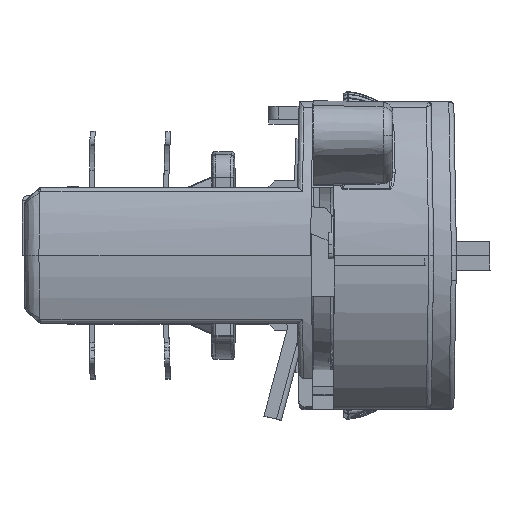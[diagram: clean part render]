
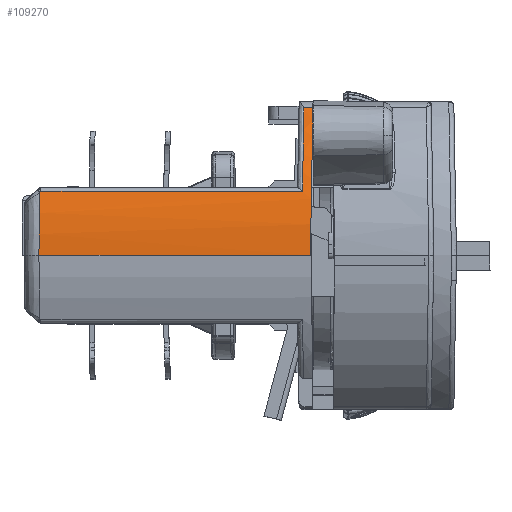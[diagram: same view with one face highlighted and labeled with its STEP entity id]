
A CAD part, left-side view. The second image highlights one B-rep face of the part: STEP entity #109270.
In plain terms, the highlighted cylindrical face has radius 19.016 mm (diameter 38.031 mm), a partial arc.
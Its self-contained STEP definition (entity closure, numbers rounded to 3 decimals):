
#1910 = VERTEX_POINT ( 'NONE', #111780 ) ;
#2325 = CARTESIAN_POINT ( 'NONE',  ( -34.19, 8.503, 5.586 ) ) ;
#4017 = CARTESIAN_POINT ( 'NONE',  ( -34.716, 8.54, 3.463 ) ) ;
#5261 = CARTESIAN_POINT ( 'NONE',  ( -27.888, 8.341, 14.841 ) ) ;
#6607 = CARTESIAN_POINT ( 'NONE',  ( -28.891, 8.355, 14.038 ) ) ;
#7466 = VECTOR ( 'NONE', #104136, 1000. ) ;
#7481 = CARTESIAN_POINT ( 'NONE',  ( -29.866, 8.371, 13.09 ) ) ;
#8341 = CARTESIAN_POINT ( 'NONE',  ( -33.232, 8.459, 8.041 ) ) ;
#9624 = ORIENTED_EDGE ( 'NONE', *, *, #109553, .F. ) ;
#10459 = FACE_OUTER_BOUND ( 'NONE', #84078, .T. ) ;
#13278 = CARTESIAN_POINT ( 'NONE',  ( -35.016, -4., 0. ) ) ;
#14957 = CARTESIAN_POINT ( 'NONE',  ( -33.92, 35.797, 6.363 ) ) ;
#15430 = CARTESIAN_POINT ( 'NONE',  ( -33.92, 35.797, 6.363 ) ) ;
#17140 = CARTESIAN_POINT ( 'NONE',  ( -35.016, 8.583, 0.943 ) ) ;
#18360 = EDGE_CURVE ( 'NONE', #33089, #76316, #113527, .T. ) ;
#18466 = CARTESIAN_POINT ( 'NONE',  ( -35.016, 8.6, 0. ) ) ;
#18874 = CARTESIAN_POINT ( 'NONE',  ( -33.271, 8.461, 7.956 ) ) ;
#19289 = EDGE_CURVE ( 'NONE', #128974, #156449, #145966, .T. ) ;
#19460 = EDGE_CURVE ( 'NONE', #95910, #33089, #69426, .T. ) ;
#20582 = CARTESIAN_POINT ( 'NONE',  ( -33.145, 8.456, 8.225 ) ) ;
#20808 = ORIENTED_EDGE ( 'NONE', *, *, #152275, .T. ) ;
#22506 = CARTESIAN_POINT ( 'NONE',  ( -33.881, -4., 6.47 ) ) ;
#23323 = B_SPLINE_CURVE_WITH_KNOTS ( 'NONE', 3,
 ( #138470, #17140, #59006, #4017, #109703, #2325, #108848, #149847, #162904, #137603, #55570, #18874, #8341, #126262, #140210, #100082, #86971, #20582, #61581, #153285, #127995, #114884, #7481, #6607, #114041 ),
 .UNSPECIFIED., .F., .F.,
 ( 4, 2, 2, 2, 2, 2, 1, 1, 1, 1, 1, 2, 2, 2, 4 ),
 ( 0., 0.125, 0.25, 0.375, 0.437, 0.469, 0.484, 0.492, 0.496, 0.498, 0.499, 0.5, 0.5, 0.75, 1. ),
 .UNSPECIFIED. ) ;
#25396 = CARTESIAN_POINT ( 'NONE',  ( -33.92, 35.797, 6.363 ) ) ;
#28061 = CARTESIAN_POINT ( 'NONE',  ( -33.907, 35.763, 6.399 ) ) ;
#33089 = VERTEX_POINT ( 'NONE', #15430 ) ;
#34072 = CARTESIAN_POINT ( 'NONE',  ( -16., -4., 0. ) ) ;
#38603 = DIRECTION ( 'NONE',  ( 0., -1., 0. ) ) ;
#41953 = ORIENTED_EDGE ( 'NONE', *, *, #19289, .F. ) ;
#50241 = AXIS2_PLACEMENT_3D ( 'NONE', #34072, #61150, #75951 ) ;
#53964 = ORIENTED_EDGE ( 'NONE', *, *, #58065, .T. ) ;
#55570 = CARTESIAN_POINT ( 'NONE',  ( -33.35, 8.464, 7.784 ) ) ;
#55796 = B_SPLINE_CURVE_WITH_KNOTS ( 'NONE', 3,
 ( #140005, #85896, #71022, #98116, #112093, #126906 ),
 .UNSPECIFIED., .F., .F.,
 ( 4, 2, 4 ),
 ( 0., 0.5, 1. ),
 .UNSPECIFIED. ) ;
#58065 = EDGE_CURVE ( 'NONE', #75959, #156449, #23323, .T. ) ;
#59006 = CARTESIAN_POINT ( 'NONE',  ( -34.946, 8.568, 1.827 ) ) ;
#61150 = DIRECTION ( 'NONE',  ( 0., 1., 0. ) ) ;
#61581 = CARTESIAN_POINT ( 'NONE',  ( -33.143, 8.456, 8.229 ) ) ;
#64683 = CARTESIAN_POINT ( 'NONE',  ( -35.016, 35.9, 0. ) ) ;
#69426 = B_SPLINE_CURVE_WITH_KNOTS ( 'NONE', 3,
 ( #83920, #97036, #28061, #14957 ),
 .UNSPECIFIED., .F., .F.,
 ( 4, 4 ),
 ( 0., 1. ),
 .UNSPECIFIED. ) ;
#71022 = CARTESIAN_POINT ( 'NONE',  ( -30.23, 9.284, 12.732 ) ) ;
#72073 = CARTESIAN_POINT ( 'NONE',  ( -27.888, 9.248, 14.841 ) ) ;
#75575 = ORIENTED_EDGE ( 'NONE', *, *, #19460, .T. ) ;
#75951 = DIRECTION ( 'NONE',  ( 0., 0., 1. ) ) ;
#75959 = VERTEX_POINT ( 'NONE', #18466 ) ;
#76316 = VERTEX_POINT ( 'NONE', #131651 ) ;
#83920 = CARTESIAN_POINT ( 'NONE',  ( -33.881, 35.693, 6.47 ) ) ;
#84078 = EDGE_LOOP ( 'NONE', ( #53964, #41953, #93258, #9624, #75575, #85922, #20808 ) ) ;
#85896 = CARTESIAN_POINT ( 'NONE',  ( -29.071, 9.264, 13.894 ) ) ;
#85922 = ORIENTED_EDGE ( 'NONE', *, *, #18360, .T. ) ;
#86971 = CARTESIAN_POINT ( 'NONE',  ( -33.147, 8.456, 8.22 ) ) ;
#88005 = LINE ( 'NONE', #22506, #125710 ) ;
#93258 = ORIENTED_EDGE ( 'NONE', *, *, #104172, .T. ) ;
#95910 = VERTEX_POINT ( 'NONE', #136963 ) ;
#97036 = CARTESIAN_POINT ( 'NONE',  ( -33.894, 35.728, 6.434 ) ) ;
#98116 = CARTESIAN_POINT ( 'NONE',  ( -32.302, 9.331, 9.942 ) ) ;
#100082 = CARTESIAN_POINT ( 'NONE',  ( -33.153, 8.457, 8.209 ) ) ;
#104136 = DIRECTION ( 'NONE',  ( 0., -1., 0. ) ) ;
#104172 = EDGE_CURVE ( 'NONE', #128974, #1910, #55796, .T. ) ;
#108848 = CARTESIAN_POINT ( 'NONE',  ( -33.985, 8.492, 6.205 ) ) ;
#109270 = ADVANCED_FACE ( 'NONE', ( #10459 ), #140610, .T. ) ;
#109553 = EDGE_CURVE ( 'NONE', #95910, #1910, #88005, .T. ) ;
#109703 = CARTESIAN_POINT ( 'NONE',  ( -34.556, 8.526, 4.215 ) ) ;
#111780 = CARTESIAN_POINT ( 'NONE',  ( -33.881, 9.39, 6.47 ) ) ;
#112093 = CARTESIAN_POINT ( 'NONE',  ( -33.214, 9.359, 8.312 ) ) ;
#113527 = B_SPLINE_CURVE_WITH_KNOTS ( 'NONE', 3,
 ( #25396, #158960, #118844, #64683 ),
 .UNSPECIFIED., .F., .F.,
 ( 4, 4 ),
 ( 0., 1. ),
 .UNSPECIFIED. ) ;
#114041 = CARTESIAN_POINT ( 'NONE',  ( -27.888, 8.341, 14.841 ) ) ;
#114884 = CARTESIAN_POINT ( 'NONE',  ( -31.655, 8.41, 10.887 ) ) ;
#117249 = CARTESIAN_POINT ( 'NONE',  ( -27.888, -4., 14.841 ) ) ;
#118844 = CARTESIAN_POINT ( 'NONE',  ( -35.016, 35.866, 2.163 ) ) ;
#125710 = VECTOR ( 'NONE', #139557, 1000. ) ;
#126262 = CARTESIAN_POINT ( 'NONE',  ( -33.187, 8.458, 8.137 ) ) ;
#126906 = CARTESIAN_POINT ( 'NONE',  ( -33.881, 9.39, 6.47 ) ) ;
#127995 = CARTESIAN_POINT ( 'NONE',  ( -32.469, 8.432, 9.632 ) ) ;
#128974 = VERTEX_POINT ( 'NONE', #72073 ) ;
#131651 = CARTESIAN_POINT ( 'NONE',  ( -35.016, 35.9, 0. ) ) ;
#133755 = LINE ( 'NONE', #13278, #7466 ) ;
#135144 = VECTOR ( 'NONE', #38603, 1000. ) ;
#136963 = CARTESIAN_POINT ( 'NONE',  ( -33.881, 35.693, 6.47 ) ) ;
#137603 = CARTESIAN_POINT ( 'NONE',  ( -33.403, 8.466, 7.665 ) ) ;
#138470 = CARTESIAN_POINT ( 'NONE',  ( -35.016, 8.6, 0. ) ) ;
#139557 = DIRECTION ( 'NONE',  ( 0., -1., 0. ) ) ;
#140005 = CARTESIAN_POINT ( 'NONE',  ( -27.888, 9.248, 14.841 ) ) ;
#140210 = CARTESIAN_POINT ( 'NONE',  ( -33.164, 8.457, 8.185 ) ) ;
#140610 = CYLINDRICAL_SURFACE ( 'NONE', #50241, 19.016 ) ;
#145966 = LINE ( 'NONE', #117249, #135144 ) ;
#149847 = CARTESIAN_POINT ( 'NONE',  ( -33.668, 8.477, 7.036 ) ) ;
#152275 = EDGE_CURVE ( 'NONE', #76316, #75959, #133755, .T. ) ;
#153285 = CARTESIAN_POINT ( 'NONE',  ( -33.143, 8.456, 8.229 ) ) ;
#156449 = VERTEX_POINT ( 'NONE', #5261 ) ;
#158960 = CARTESIAN_POINT ( 'NONE',  ( -34.643, 35.832, 4.325 ) ) ;
#162904 = CARTESIAN_POINT ( 'NONE',  ( -33.562, 8.472, 7.297 ) ) ;
